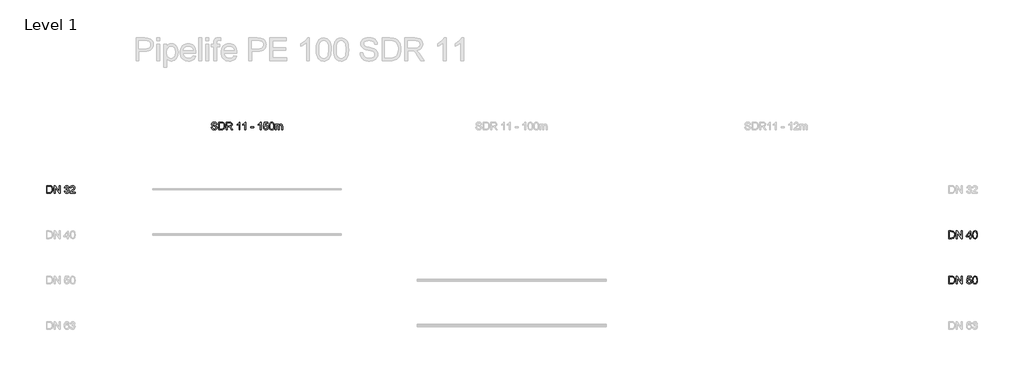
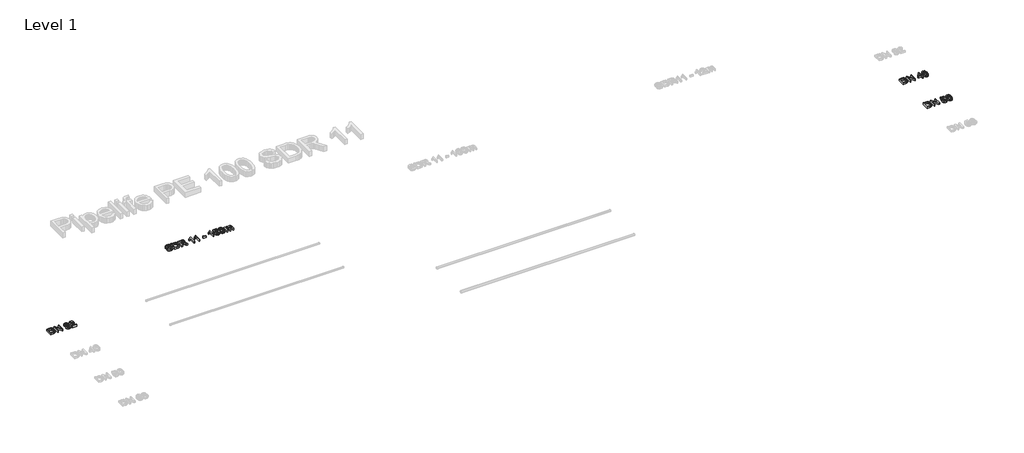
# One storey, part 24 of 26: 4 proxies.
"""IFC4 building model written with IfcOpenShell, lengths in millimetres."""

from ifc_helpers import new_model, si_unit, origin, origin_with_axes, place, context, project, spatial, polyline, outline, extrude, element, save

model = new_model("IFC4")

# Units and contexts
model_context = context("Model", 3, world=origin())
ifc_project = project(units=[si_unit("LENGTHUNIT", "METRE", prefix="MILLI")], contexts=[model_context])

# Site, building, storey
site = spatial("IfcSite", under=ifc_project)
building = spatial("IfcBuilding", under=site)
storey = spatial("IfcBuildingStorey", under=building, Name="Level 1", Elevation=0.0)

# Proxies
placement = place(None, origin())
element("IfcBuildingElementProxy", 1, Name="200mm Arial", ObjectType="200mm Arial", at=placement, inside=storey, context=model_context, shape_type="SweptSolid", body=[
    extrude(outline(polyline([(-19337.4878779, 486.050427), (-19337.4878779, 686.9630473), (-19268.17891, 686.9630473), (-19232.3226782, 684.0690423), (-19216.3075487, 678.4894987), (-19202.7940167, 669.697119), (-19188.90034, 654.393228), (-19179.0043144, 635.3614662), (-19173.0814143, 612.9697154), (-19171.1071142, 587.5858577), (-19176.4536659, 547.0452618), (-19190.187927, 517.7863805), (-19208.5329759, 499.563959), (-19232.5434074, 489.4839923), (-19264.8434466, 486.050427), (-19337.4878779, 486.050427)]), holes=[polyline([(-19312.3738004, 511.1645046), (-19267.9336553, 511.1645046), (-19235.6090907, 514.7942736), (-19216.9697363, 525.0459185), (-19208.2448016, 535.9168315), (-19201.6903707, 549.9883178), (-19197.5884865, 567.3216911), (-19196.2211917, 587.9782652), (-19198.9005989, 615.3486856), (-19206.9388205, 635.5576699), (-19218.8152776, 649.4390838), (-19233.0093913, 657.8267933), (-19268.6203684, 661.8489698), (-19312.3738004, 661.8489698), (-19312.3738004, 511.1645046)])]), origin_with_axes(), (0.0, 0.0, 1.0), 50.0),
    extrude(outline(polyline([(-19136.5752576, 486.050427), (-19136.5752576, 686.9630473), (-19109.6953465, 686.9630473), (-19004.7263505, 527.7927708), (-19004.7263505, 686.9630473), (-18979.612273, 686.9630473), (-18979.612273, 486.050427), (-19006.4921841, 486.050427), (-19111.4611801, 645.2697546), (-19111.4611801, 486.050427), (-19136.5752576, 486.050427)])), origin_with_axes(), (0.0, 0.0, 1.0), 50.0),
    extrude(outline(polyline([(-18866.5989241, 539.4178418), (-18841.4848465, 542.5571015), (-18835.8623834, 526.7749639), (-18827.627958, 516.1186488), (-18816.3769004, 510.0485959), (-18801.7045401, 508.0252449), (-18784.4876627, 510.8088853), (-18771.19486, 519.1598066), (-18762.6967859, 531.6187435), (-18759.8640945, 546.7264308), (-18762.6722604, 561.0676972), (-18771.0967581, 572.6988996), (-18783.8500006, 580.4060274), (-18799.6444009, 582.97507), (-18817.2536858, 580.2282178), (-18814.4577826, 605.3422953), (-18810.4356061, 605.0479898), (-18795.3892325, 606.8506115), (-18781.9370142, 612.2584769), (-18772.4456588, 621.4064758), (-18769.2818736, 634.4294984), (-18771.5750047, 645.2758859), (-18778.454398, 654.074397), (-18788.9512976, 659.9053266), (-18802.0969476, 661.8489698), (-18815.267123, 659.8869325), (-18826.0338027, 654.0008206), (-18833.8942147, 644.190634), (-18838.3455868, 630.4563729), (-18863.4596644, 633.5956326), (-18856.0652363, 656.1467989), (-18842.9073236, 672.9835315), (-18824.9056313, 683.4681684), (-18802.9798644, 686.9630473), (-18787.1915954, 685.2401333), (-18772.6909134, 680.0713913), (-18760.4649685, 671.9166737), (-18751.5009105, 661.2358331), (-18746.0010747, 648.9301804), (-18744.1677961, 635.9010264), (-18745.9091042, 623.7609206), (-18751.1330285, 612.7489862), (-18759.7659927, 603.3679953), (-18771.7344202, 596.12072), (-18756.0135963, 589.7686242), (-18744.3639998, 578.9528936), (-18737.1535127, 564.2621392), (-18734.750017, 546.2849724), (-18739.5570084, 521.808557), (-18753.9779826, 501.354318), (-18775.744334, 487.521955), (-18802.5874569, 482.9111674), (-18826.8676686, 486.8475047), (-18846.6351945, 498.6565167), (-18860.3817184, 516.7195227), (-18866.5989241, 539.4178418)])), origin_with_axes(), (0.0, 0.0, 1.0), 50.0),
    extrude(outline(polyline([(-18584.0655518, 511.1645046), (-18584.0655518, 486.050427), (-18715.9144588, 486.050427), (-18713.2166575, 503.3654063), (-18697.9618175, 530.0245882), (-18666.5201696, 559.1363168), (-18623.1591451, 600.9767623), (-18615.028953, 615.3977366), (-18612.318889, 629.4263033), (-18614.8756689, 642.0017362), (-18622.5460085, 652.4557162), (-18634.3366264, 659.5006564), (-18649.2542413, 661.8489698), (-18664.9198829, 659.5558387), (-18677.0906456, 652.6764454), (-18684.9449262, 641.7503501), (-18687.6611216, 627.3171132), (-18712.7751992, 630.4563729), (-18706.6867521, 654.7488473), (-18693.5227081, 672.4930222), (-18673.96978, 683.3455411), (-18648.7146811, 686.9630473), (-18623.2756411, 682.9408709), (-18603.7595012, 670.8743414), (-18591.3434839, 652.8481237), (-18587.2048115, 630.9468822), (-18591.6684463, 607.1326544), (-18606.5063535, 582.5090862), (-18642.4852126, 548.0998569), (-18671.376212, 523.9422725), (-18682.7069774, 511.1645046), (-18584.0655518, 511.1645046)])), origin_with_axes(), (0.0, 0.0, 1.0), 50.0),
])
element("IfcBuildingElementProxy", 2, Name="200mm Arial", ObjectType="200mm Arial", at=placement, inside=storey, context=model_context, shape_type="SweptSolid", body=[
    extrude(outline(polyline([(-14979.1539224, 2231.0128426), (-14954.0398449, 2231.0128426), (-14945.946441, 2205.8742396), (-14937.8162489, 2196.983758), (-14926.1789151, 2189.9817374), (-14911.9541446, 2185.4383947), (-14896.0616424, 2183.9239472), (-14869.8193934, 2188.5102094), (-14852.8722962, 2201.1162991), (-14847.3050153, 2217.9652945), (-14851.4743446, 2233.6370675), (-14857.8264404, 2239.8358791), (-14868.5440692, 2245.0414093), (-14905.1115395, 2254.6308667), (-14944.474913, 2267.0162272), (-14956.9767695, 2275.4652503), (-14965.8365942, 2285.7046325), (-14971.1157008, 2297.5136446), (-14972.875403, 2310.6715573), (-14970.6987679, 2325.3807057), (-14964.1688625, 2339.0965728), (-14953.457365, 2350.7216438), (-14938.7359539, 2359.1584042), (-14921.0653554, 2364.2903581), (-14901.506296, 2366.0010093), (-14880.316293, 2364.2106503), (-14861.7750405, 2358.8395732), (-14846.5447259, 2349.9981425), (-14835.2875368, 2337.796723), (-14828.1628889, 2322.9956041), (-14825.3301975, 2306.3550752), (-14850.444275, 2306.3550752), (-14855.0550627, 2321.3401351), (-14864.6690455, 2332.1558658), (-14879.6908936, 2338.7041653), (-14900.5252773, 2340.8869318), (-14921.8501703, 2338.7286908), (-14936.479611, 2332.2539676), (-14944.9408969, 2322.725824), (-14947.7613255, 2311.4073212), (-14945.7625, 2301.7565502), (-14939.7660235, 2293.9942401), (-14925.5903039, 2287.0535332), (-14898.7594437, 2279.9656734), (-14854.3192987, 2267.3595837), (-14840.0025577, 2258.2483729), (-14830.0145616, 2247.0034466), (-14824.1468437, 2233.7474321), (-14822.1909378, 2218.6029566), (-14824.4411493, 2203.121256), (-14831.1917839, 2188.5592603), (-14842.1669301, 2176.026747), (-14857.0906764, 2166.6334934), (-14875.0371864, 2160.7657756), (-14895.0806238, 2158.8098696), (-14919.6857979, 2160.9190598), (-14939.9377017, 2167.2466301), (-14956.0693272, 2177.8171061), (-14968.3136663, 2192.6550132), (-14976.1740782, 2210.7302819), (-14979.1539224, 2231.0128426)])), origin_with_axes(), (0.0, 0.0, 1.0), 50.0),
    extrude(outline(polyline([(-14784.5198215, 2161.9491293), (-14784.5198215, 2362.8617496), (-14715.2108536, 2362.8617496), (-14679.3546218, 2359.9677446), (-14663.3394923, 2354.388201), (-14649.8259603, 2345.5958213), (-14635.9322836, 2330.2919303), (-14626.036258, 2311.2601685), (-14620.1133578, 2288.8684177), (-14618.1390578, 2263.48456), (-14623.4856095, 2222.9439641), (-14637.2198706, 2193.6850828), (-14655.5649194, 2175.4626613), (-14679.575351, 2165.3826946), (-14711.8753902, 2161.9491293), (-14784.5198215, 2161.9491293)]), holes=[polyline([(-14759.405744, 2187.0632069), (-14714.9655989, 2187.0632069), (-14682.6410343, 2190.6929759), (-14664.0016799, 2200.9446208), (-14655.2767452, 2211.8155338), (-14648.7223143, 2225.8870201), (-14644.6204301, 2243.2203934), (-14643.2531353, 2263.8769675), (-14645.9325425, 2291.2473879), (-14653.9707641, 2311.4563722), (-14665.8472212, 2325.3377861), (-14680.0413349, 2333.7254956), (-14715.652312, 2337.7476721), (-14759.405744, 2337.7476721), (-14759.405744, 2187.0632069)])]), origin_with_axes(), (0.0, 0.0, 1.0), 50.0),
    extrude(outline(polyline([(-14583.6072012, 2161.9491293), (-14583.6072012, 2362.8617496), (-14497.032305, 2362.8617496), (-14473.7637688, 2361.5067176), (-14456.8350657, 2357.4416216), (-14444.4619679, 2349.9368289), (-14434.8602478, 2338.2627069), (-14428.6982244, 2323.7865504), (-14426.6442166, 2307.8756541), (-14430.047125, 2288.0836028), (-14440.2558504, 2271.6760658), (-14457.576961, 2259.6463245), (-14482.3170252, 2252.9876604), (-14468.0432038, 2242.2455062), (-14447.6870667, 2216.3956646), (-14414.1852797, 2161.9491293), (-14443.3705846, 2161.9491293), (-14469.5147318, 2203.5933712), (-14488.3993408, 2231.1599954), (-14501.6676181, 2244.183018), (-14513.6115202, 2248.9654839), (-14528.1796473, 2249.8484007), (-14558.4931237, 2249.8484007), (-14558.4931237, 2161.9491293), (-14583.6072012, 2161.9491293)]), holes=[polyline([(-14558.4931237, 2274.9624783), (-14502.2807548, 2274.9624783), (-14473.6104846, 2278.5186709), (-14464.1804428, 2283.1417213), (-14457.325575, 2289.8984873), (-14451.7582941, 2306.9436864), (-14454.4131759, 2319.1941568), (-14462.377821, 2329.065657), (-14476.0814254, 2335.5771683), (-14495.9531845, 2337.7476721), (-14558.4931237, 2337.7476721), (-14558.4931237, 2274.9624783)])]), origin_with_axes(), (0.0, 0.0, 1.0), 50.0),
    extrude(outline(polyline([(-14219.4530769, 2161.9491293), (-14244.5671544, 2161.9491293), (-14244.5671544, 2318.5197065), (-14268.3568568, 2301.5726092), (-14294.7953095, 2288.8929431), (-14294.7953095, 2312.6335946), (-14257.9825845, 2336.1289913), (-14244.5119721, 2349.7038369), (-14235.6398847, 2362.8617496), (-14219.4530769, 2362.8617496), (-14219.4530769, 2161.9491293)])), origin_with_axes(), (0.0, 0.0, 1.0), 50.0),
    extrude(outline(polyline([(-14065.629352, 2161.9491293), (-14090.7434295, 2161.9491293), (-14090.7434295, 2318.5197065), (-14114.5331319, 2301.5726092), (-14140.9715846, 2288.8929431), (-14140.9715846, 2312.6335946), (-14104.1588596, 2336.1289913), (-14090.6882472, 2349.7038369), (-14081.8161598, 2362.8617496), (-14065.629352, 2362.8617496), (-14065.629352, 2161.9491293)])), origin_with_axes(), (0.0, 0.0, 1.0), 50.0),
    extrude(outline(polyline([(-13933.7804449, 2221.5950635), (-13933.7804449, 2246.709141), (-13855.2989526, 2246.709141), (-13855.2989526, 2221.5950635), (-13933.7804449, 2221.5950635)])), origin_with_axes(), (0.0, 0.0, 1.0), 50.0),
    extrude(outline(polyline([(-13660.6648517, 2161.9491293), (-13685.7789292, 2161.9491293), (-13685.7789292, 2318.5197065), (-13709.5686316, 2301.5726092), (-13736.0070843, 2288.8929431), (-13736.0070843, 2312.6335946), (-13699.1943593, 2336.1289913), (-13685.7237469, 2349.7038369), (-13676.8516595, 2362.8617496), (-13660.6648517, 2362.8617496), (-13660.6648517, 2161.9491293)])), origin_with_axes(), (0.0, 0.0, 1.0), 50.0),
    extrude(outline(polyline([(-13601.0189175, 2215.3165441), (-13575.90484, 2218.4558038), (-13571.2940523, 2203.3787734), (-13563.2496994, 2192.5814368), (-13551.8085693, 2186.0883196), (-13537.0074504, 2183.9239472), (-13519.0057581, 2186.9344482), (-13505.5167516, 2195.9659512), (-13497.0922539, 2209.9761238), (-13494.284088, 2227.9226338), (-13496.9144443, 2244.8206801), (-13504.8055131, 2257.7456009), (-13518.0186081, 2265.9493694), (-13536.6150429, 2268.6839589), (-13558.6634372, 2264.3184259), (-13572.7655803, 2252.9876604), (-13597.8796578, 2256.1269201), (-13575.90484, 2359.7224899), (-13478.5877895, 2359.7224899), (-13478.5877895, 2334.6084124), (-13555.5977539, 2334.6084124), (-13566.3399081, 2279.2789603), (-13548.3995295, 2290.1682674), (-13529.6007595, 2293.7980364), (-13506.1360196, 2289.2976133), (-13486.656668, 2275.7963441), (-13473.5416748, 2255.2194779), (-13469.1700105, 2229.4922637), (-13473.1063478, 2204.3781861), (-13484.9153599, 2182.8938776), (-13495.3509458, 2172.3571241), (-13507.5278398, 2164.8308716), (-13521.446042, 2160.3151201), (-13537.1055522, 2158.8098696), (-13561.77204, 2162.678762), (-13581.4230699, 2174.2854389), (-13594.8936823, 2192.2809998), (-13601.0189175, 2215.3165441)])), origin_with_axes(), (0.0, 0.0, 1.0), 50.0),
    extrude(outline(polyline([(-13447.1951926, 2260.7867587), (-13445.3496513, 2292.9457765), (-13439.8130273, 2318.5932829), (-13430.6405028, 2338.1216855), (-13417.8872603, 2351.9233917), (-13401.4613293, 2360.1271601), (-13381.2707391, 2362.8617496), (-13365.7951698, 2361.2430689), (-13351.9382813, 2356.3870265), (-13340.3499985, 2348.483695), (-13331.6802461, 2337.7231466), (-13319.9080223, 2307.9982814), (-13315.3462856, 2260.7867587), (-13317.1734328, 2228.811682), (-13322.6548745, 2203.2254892), (-13331.7722166, 2183.6786925), (-13344.507065, 2169.821804), (-13360.9697843, 2161.5628532), (-13381.2707391, 2158.8098696), (-13407.3658353, 2163.5923356), (-13427.1824121, 2177.9397334), (-13435.9380036, 2193.0688805), (-13442.1919975, 2211.919767), (-13447.1951926, 2260.7867587)]), holes=[polyline([(-13422.0811151, 2260.8358096), (-13419.1380591, 2221.3314147), (-13410.3088912, 2198.4675487), (-13397.1632413, 2187.5598476), (-13381.2707391, 2183.9239472), (-13365.3782369, 2187.5721103), (-13352.2325869, 2198.5165997), (-13343.4034191, 2221.3927284), (-13340.4603631, 2260.8358096), (-13343.3053172, 2299.4511564), (-13351.8401795, 2322.492832), (-13364.961304, 2333.9339621), (-13381.5650447, 2337.7476721), (-13397.2858686, 2334.3876832), (-13409.9164838, 2324.3077165), (-13419.0399573, 2299.8313011), (-13422.0811151, 2260.8358096)])]), origin_with_axes(), (0.0, 0.0, 1.0), 50.0),
    extrude(outline(polyline([(-13287.0929483, 2161.9491293), (-13287.0929483, 2309.4943349), (-13261.9788708, 2309.4943349), (-13261.9788708, 2285.2141232), (-13254.4250272, 2296.367079), (-13244.7129425, 2305.1042764), (-13233.1737106, 2310.751265), (-13220.1384252, 2312.6335946), (-13206.1711721, 2310.7144768), (-13194.9752967, 2304.9571236), (-13186.6121127, 2295.7416796), (-13181.1429337, 2283.4482896), (-13171.9888034, 2296.2168605), (-13161.5470861, 2305.3372683), (-13149.8177818, 2310.809513), (-13136.8008906, 2312.6335946), (-13117.9224128, 2309.5985681), (-13103.9612911, 2300.4934887), (-13095.3344583, 2285.0731018), (-13092.4588474, 2263.0921525), (-13092.4588474, 2161.9491293), (-13117.5729249, 2161.9491293), (-13117.5729249, 2252.3009474), (-13119.9028442, 2273.2702211), (-13128.3396047, 2283.5954424), (-13142.6870025, 2287.519517), (-13156.2925049, 2285.0056567), (-13167.3841471, 2277.4640758), (-13174.7601811, 2264.3797395), (-13177.2188591, 2245.237613), (-13177.2188591, 2161.9491293), (-13202.3329366, 2161.9491293), (-13202.3329366, 2255.0968505), (-13203.7860705, 2269.2970955), (-13208.1454722, 2279.4261131), (-13215.8158118, 2285.4961661), (-13227.2017595, 2287.519517), (-13245.792063, 2282.1239144), (-13253.1497029, 2275.4775131), (-13258.152898, 2266.3295141), (-13261.9788708, 2236.3593942), (-13261.9788708, 2161.9491293), (-13287.0929483, 2161.9491293)])), origin_with_axes(), (0.0, 0.0, 1.0), 50.0),
])
element("IfcBuildingElementProxy", 3, Name="200mm Arial", ObjectType="200mm Arial", at=placement, inside=storey, context=model_context, shape_type="SweptSolid", body=[
    extrude(outline(polyline([(4539.3076926, -713.949573), (4539.3076926, -513.0369527), (4608.6166605, -513.0369527), (4644.4728923, -515.9309577), (4660.4880218, -521.5105013), (4674.0015538, -530.302881), (4687.8952305, -545.606772), (4697.7912562, -564.6385338), (4703.7141563, -587.0302846), (4705.6884563, -612.4141423), (4700.3419047, -652.9547382), (4686.6076435, -682.2136195), (4668.2625947, -700.436041), (4644.2521631, -710.5160077), (4611.9521239, -713.949573), (4539.3076926, -713.949573)]), holes=[polyline([(4564.4217702, -688.8354954), (4608.8619152, -688.8354954), (4641.1864798, -685.2057264), (4659.8258342, -674.9540815), (4668.5507689, -664.0831685), (4675.1051998, -650.0116822), (4679.207084, -632.6783089), (4680.5743788, -612.0217348), (4677.8949716, -584.6513144), (4669.85675, -564.4423301), (4657.9802929, -550.5609162), (4643.7861793, -542.1732067), (4608.1752021, -538.1510302), (4564.4217702, -538.1510302), (4564.4217702, -688.8354954)])]), origin_with_axes(), (0.0, 0.0, 1.0), 50.0),
    extrude(outline(polyline([(4740.2203129, -713.949573), (4740.2203129, -513.0369527), (4767.100224, -513.0369527), (4872.06922, -672.2072292), (4872.06922, -513.0369527), (4897.1832975, -513.0369527), (4897.1832975, -713.949573), (4870.3033864, -713.949573), (4765.3343905, -554.7302454), (4765.3343905, -713.949573), (4740.2203129, -713.949573)])), origin_with_axes(), (0.0, 0.0, 1.0), 50.0),
    extrude(outline(polyline([(5091.8173985, -713.949573), (5091.8173985, -666.8606776), (5000.7788674, -666.8606776), (5000.7788674, -641.7466), (5098.0959178, -516.1762123), (5116.931476, -516.1762123), (5116.931476, -641.7466), (5142.0455535, -641.7466), (5142.0455535, -666.8606776), (5116.931476, -666.8606776), (5116.931476, -713.949573), (5091.8173985, -713.949573)]), holes=[polyline([(5091.8173985, -641.7466), (5091.8173985, -564.1480245), (5031.680955, -641.7466), (5091.8173985, -641.7466)])]), origin_with_axes(), (0.0, 0.0, 1.0), 50.0),
    extrude(outline(polyline([(5164.0203714, -615.1119436), (5165.8659127, -582.9529258), (5171.4025367, -557.3054194), (5180.5750612, -537.7770168), (5193.3283037, -523.9753106), (5209.7542347, -515.7715422), (5229.9448249, -513.0369527), (5245.4203942, -514.6556334), (5259.2772827, -519.5116758), (5270.8655655, -527.4150073), (5279.5353179, -538.1755557), (5291.3075417, -567.9004209), (5295.8692784, -615.1119436), (5294.0421312, -647.0870203), (5288.5606895, -672.6732131), (5279.4433474, -692.2200098), (5266.708499, -706.0768983), (5250.2457797, -714.335849), (5229.9448249, -717.0888326), (5203.8497287, -712.3063667), (5184.0331519, -697.9589689), (5175.2775604, -682.8298218), (5169.0235665, -663.9789353), (5164.0203714, -615.1119436)]), holes=[polyline([(5189.1344489, -615.0628927), (5192.0775049, -654.5672876), (5200.9066728, -677.4311536), (5214.0523227, -688.3388547), (5229.9448249, -691.9747551), (5245.8373271, -688.326592), (5258.9829771, -677.3821026), (5267.8121449, -654.5059739), (5270.7552009, -615.0628927), (5267.9102468, -576.4475459), (5259.3753845, -553.4058703), (5246.25426, -541.9647402), (5229.6505193, -538.1510302), (5213.9296954, -541.5110191), (5201.2990802, -551.5909857), (5192.1756067, -576.0674012), (5189.1344489, -615.0628927)])]), origin_with_axes(), (0.0, 0.0, 1.0), 50.0),
])
element("IfcBuildingElementProxy", 4, Name="200mm Arial", ObjectType="200mm Arial", at=placement, inside=storey, context=model_context, shape_type="SweptSolid", body=[
    extrude(outline(polyline([(4539.3076926, -1913.949573), (4539.3076926, -1713.0369527), (4608.6166605, -1713.0369527), (4644.4728923, -1715.9309577), (4660.4880218, -1721.5105013), (4674.0015538, -1730.302881), (4687.8952305, -1745.606772), (4697.7912562, -1764.6385338), (4703.7141563, -1787.0302846), (4705.6884563, -1812.4141423), (4700.3419047, -1852.9547382), (4686.6076435, -1882.2136195), (4668.2625947, -1900.436041), (4644.2521631, -1910.5160077), (4611.9521239, -1913.949573), (4539.3076926, -1913.949573)]), holes=[polyline([(4564.4217702, -1888.8354954), (4608.8619152, -1888.8354954), (4641.1864798, -1885.2057264), (4659.8258342, -1874.9540815), (4668.5507689, -1864.0831685), (4675.1051998, -1850.0116822), (4679.207084, -1832.6783089), (4680.5743788, -1812.0217348), (4677.8949716, -1784.6513144), (4669.85675, -1764.4423301), (4657.9802929, -1750.5609162), (4643.7861793, -1742.1732067), (4608.1752021, -1738.1510302), (4564.4217702, -1738.1510302), (4564.4217702, -1888.8354954)])]), origin_with_axes(), (0.0, 0.0, 1.0), 50.0),
    extrude(outline(polyline([(4740.2203129, -1913.949573), (4740.2203129, -1713.0369527), (4767.100224, -1713.0369527), (4872.06922, -1872.2072292), (4872.06922, -1713.0369527), (4897.1832975, -1713.0369527), (4897.1832975, -1913.949573), (4870.3033864, -1913.949573), (4765.3343905, -1754.7302454), (4765.3343905, -1913.949573), (4740.2203129, -1913.949573)])), origin_with_axes(), (0.0, 0.0, 1.0), 50.0),
    extrude(outline(polyline([(5010.1966465, -1860.5821582), (5035.310724, -1857.4428985), (5039.9215117, -1872.5199289), (5047.9658646, -1883.3172655), (5059.4069947, -1889.8103827), (5074.2081136, -1891.9747551), (5092.2098059, -1888.9642541), (5105.6988124, -1879.9327511), (5114.1233101, -1865.9225785), (5116.931476, -1847.9760685), (5114.3011197, -1831.0780222), (5106.4100509, -1818.1531014), (5093.1969559, -1809.9493329), (5074.6005211, -1807.2147434), (5052.5521268, -1811.5802764), (5038.4499837, -1822.9110419), (5013.3359061, -1819.7717822), (5035.310724, -1716.1762123), (5132.6277745, -1716.1762123), (5132.6277745, -1741.2902899), (5055.6178101, -1741.2902899), (5044.8756559, -1796.619742), (5062.8160345, -1785.7304349), (5081.6148045, -1782.1006659), (5105.0795444, -1786.601089), (5124.558896, -1800.1023582), (5137.6738892, -1820.6792244), (5142.0455535, -1846.4064386), (5138.1092162, -1871.5205162), (5126.3002041, -1893.0048247), (5115.8646182, -1903.5415782), (5103.6877242, -1911.0678307), (5089.769522, -1915.5835821), (5074.1100118, -1917.0888326), (5049.443524, -1913.2199403), (5029.7924941, -1901.6132634), (5016.3218817, -1883.6177025), (5010.1966465, -1860.5821582)])), origin_with_axes(), (0.0, 0.0, 1.0), 50.0),
    extrude(outline(polyline([(5164.0203714, -1815.1119436), (5165.8659127, -1782.9529258), (5171.4025367, -1757.3054194), (5180.5750612, -1737.7770168), (5193.3283037, -1723.9753106), (5209.7542347, -1715.7715422), (5229.9448249, -1713.0369527), (5245.4203942, -1714.6556334), (5259.2772827, -1719.5116758), (5270.8655655, -1727.4150073), (5279.5353179, -1738.1755557), (5291.3075417, -1767.9004209), (5295.8692784, -1815.1119436), (5294.0421312, -1847.0870203), (5288.5606895, -1872.6732131), (5279.4433474, -1892.2200098), (5266.708499, -1906.0768983), (5250.2457797, -1914.335849), (5229.9448249, -1917.0888326), (5203.8497287, -1912.3063667), (5184.0331519, -1897.9589689), (5175.2775604, -1882.8298218), (5169.0235665, -1863.9789353), (5164.0203714, -1815.1119436)]), holes=[polyline([(5189.1344489, -1815.0628927), (5192.0775049, -1854.5672876), (5200.9066728, -1877.4311536), (5214.0523227, -1888.3388547), (5229.9448249, -1891.9747551), (5245.8373271, -1888.326592), (5258.9829771, -1877.3821026), (5267.8121449, -1854.5059739), (5270.7552009, -1815.0628927), (5267.9102468, -1776.4475459), (5259.3753845, -1753.4058703), (5246.25426, -1741.9647402), (5229.6505193, -1738.1510302), (5213.9296954, -1741.5110191), (5201.2990802, -1751.5909857), (5192.1756067, -1776.0674012), (5189.1344489, -1815.0628927)])]), origin_with_axes(), (0.0, 0.0, 1.0), 50.0),
])

save(model, "model.ifc")
